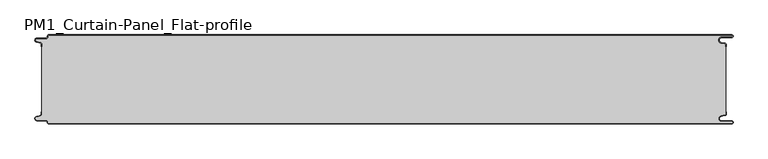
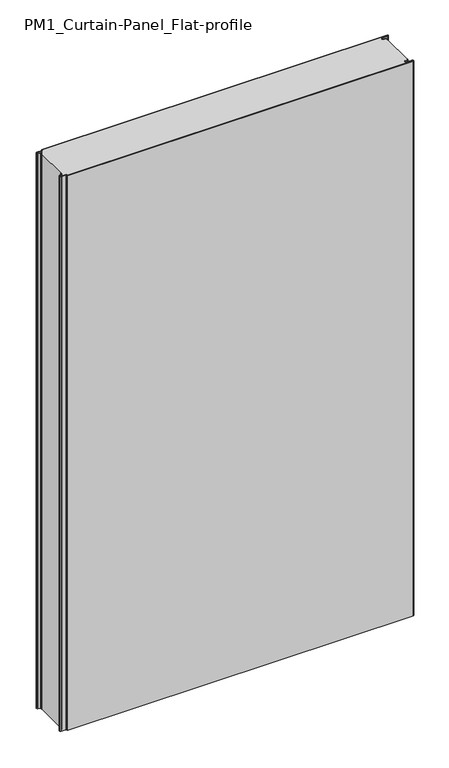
"""IFC4 building model written with IfcOpenShell, lengths in millimetres: plate geometry, PM1_Curtain-Panel_Flat-profile : ACH_PM1_Stone-wool-Panel_150M."""

from ifc_helpers import new_model, si_unit, point, frame_2d, origin, origin_with_axes, place, context, project, spatial, polyline, circle_curve, trimmed, segment, composite_curve, outline, extrude, source, transform, mapped, element, save


def pm1_curtain_panel_flat_profile_d683fd57(model_context):
    return source(origin(), model_context, "Body", "SweptSolid", [
        extrude(outline(composite_curve([segment(polyline([(-562.4, 0.0), (583.1, 0.0)]), True, "CONTINUOUS"), segment(trimmed(circle_curve(frame_2d((583.1, -2.5)), 2.5), [point((583.1, 0.0))], [point((583.1, -5.0))], False, "CARTESIAN"), True, "CONTINUOUS"), segment(polyline([(583.1, -5.0), (566.1, -5.0)]), True, "CONTINUOUS"), segment(trimmed(circle_curve(frame_2d((566.1, -9.0)), 4.0), [point((566.1, -5.0))], [point((565.4054075, -12.939231))], True, "CARTESIAN"), True, "CONTINUOUS"), segment(polyline([(565.4054075, -12.939231), (571.8514851, -14.075848)]), True, "CONTINUOUS"), segment(trimmed(circle_curve(frame_2d((571.4, -16.636348)), 2.6), [point((571.8514851, -14.075848))], [point((574.0, -16.636348))], False, "CARTESIAN"), True, "CONTINUOUS"), segment(polyline([(574.0, -16.636348), (574.0, -20.0), (573.2, -20.0), (573.2, -16.636348)]), True, "CONTINUOUS"), segment(trimmed(circle_curve(frame_2d((571.4, -16.636348)), 1.8), [point((573.2, -16.636348))], [point((571.7125666, -14.863694))], True, "CARTESIAN"), True, "CONTINUOUS"), segment(polyline([(571.7125666, -14.863694), (565.266489, -13.7270771)]), True, "CONTINUOUS"), segment(trimmed(circle_curve(frame_2d((566.1, -9.0)), 4.8), [point((565.266489, -13.7270771))], [point((566.1, -4.2))], False, "CARTESIAN"), True, "CONTINUOUS"), segment(polyline([(566.1, -4.2), (583.1, -4.2)]), True, "CONTINUOUS"), segment(trimmed(circle_curve(frame_2d((583.1, -2.5)), 1.7), [point((583.1, -4.2))], [point((583.1, -0.8))], True, "CARTESIAN"), True, "CONTINUOUS"), segment(polyline([(583.1, -0.8), (-562.4, -0.8)]), True, "CONTINUOUS"), segment(trimmed(circle_curve(frame_2d((-562.4, -2.0)), 1.2), [point((-562.4, -0.8))], [point((-563.6, -2.0))], True, "CARTESIAN"), True, "CONTINUOUS"), segment(polyline([(-563.6, -2.0), (-563.6, -3.4)]), True, "CONTINUOUS"), segment(trimmed(circle_curve(frame_2d((-566.4, -3.4)), 2.8), [point((-563.6, -3.4))], [point((-566.4, -6.2))], False, "CARTESIAN"), True, "CONTINUOUS"), segment(polyline([(-566.4, -6.2), (-581.9, -6.2)]), True, "CONTINUOUS"), segment(trimmed(circle_curve(frame_2d((-581.9, -9.0)), 2.8), [point((-581.9, -6.2))], [point((-582.529863, -11.7282362))], True, "CARTESIAN"), True, "CONTINUOUS"), segment(polyline([(-582.529863, -11.7282362), (-576.370137, -13.150321)]), True, "CONTINUOUS"), segment(trimmed(circle_curve(frame_2d((-577.0, -15.878557)), 2.8), [point((-576.370137, -13.150321))], [point((-574.2, -15.878557))], False, "CARTESIAN"), True, "CONTINUOUS"), segment(polyline([(-574.2, -15.878557), (-574.2, -20.0), (-575.0, -20.0), (-575.0, -15.878557)]), True, "CONTINUOUS"), segment(trimmed(circle_curve(frame_2d((-577.0, -15.878557)), 2.0), [point((-575.0, -15.878557))], [point((-576.5500978, -13.9298169))], True, "CARTESIAN"), True, "CONTINUOUS"), segment(polyline([(-576.5500978, -13.9298169), (-582.7098239, -12.507732)]), True, "CONTINUOUS"), segment(trimmed(circle_curve(frame_2d((-581.9, -9.0)), 3.6), [point((-582.7098239, -12.507732))], [point((-581.9, -5.4))], False, "CARTESIAN"), True, "CONTINUOUS"), segment(polyline([(-581.9, -5.4), (-566.4, -5.4)]), True, "CONTINUOUS"), segment(trimmed(circle_curve(frame_2d((-566.4, -3.4)), 2.0), [point((-566.4, -5.4))], [point((-564.4, -3.4))], True, "CARTESIAN"), True, "CONTINUOUS"), segment(polyline([(-564.4, -3.4), (-564.4, -2.0)]), True, "CONTINUOUS"), segment(trimmed(circle_curve(frame_2d((-562.4, -2.0)), 2.0), [point((-564.4, -2.0))], [point((-562.4, 0.0))], False, "CARTESIAN"), True, "CONTINUOUS")], self_intersect=False)), origin_with_axes(), (0.0, 0.0, 1.0), 1945.7507136),
        extrude(outline(composite_curve([segment(polyline([(-574.2, -134.1214426), (-574.2, -15.8785573)]), True, "CONTINUOUS"), segment(trimmed(circle_curve(frame_2d((-577.0, -15.8785573)), 2.8), [point((-574.2, -15.8785573))], [point((-576.370137, -13.1503212))], True, "CARTESIAN"), True, "CONTINUOUS"), segment(polyline([(-576.370137, -13.1503212), (-582.5298631, -11.7282362)]), True, "CONTINUOUS"), segment(trimmed(circle_curve(frame_2d((-581.9, -9.0)), 2.8), [point((-582.5298631, -11.7282362))], [point((-581.9, -6.2))], False, "CARTESIAN"), True, "CONTINUOUS"), segment(polyline([(-581.9, -6.2), (-566.4000001, -6.2)]), True, "CONTINUOUS"), segment(trimmed(circle_curve(frame_2d((-566.4000001, -3.4)), 2.8), [point((-566.4000001, -6.2))], [point((-563.6000001, -3.4))], True, "CARTESIAN"), True, "CONTINUOUS"), segment(polyline([(-563.6000001, -3.4), (-563.6000001, -2.0)]), True, "CONTINUOUS"), segment(trimmed(circle_curve(frame_2d((-562.4000001, -2.0)), 1.2), [point((-563.6000001, -2.0))], [point((-562.4000001, -0.8))], False, "CARTESIAN"), True, "CONTINUOUS"), segment(polyline([(-562.4000001, -0.8), (583.1, -0.8)]), True, "CONTINUOUS"), segment(trimmed(circle_curve(frame_2d((583.1, -2.5)), 1.7), [point((583.1, -0.8))], [point((583.1, -4.2))], False, "CARTESIAN"), True, "CONTINUOUS"), segment(polyline([(583.1, -4.2), (566.1, -4.2)]), True, "CONTINUOUS"), segment(trimmed(circle_curve(frame_2d((566.1, -9.0)), 4.8), [point((566.1, -4.2))], [point((565.2664883, -13.7270771))], True, "CARTESIAN"), True, "CONTINUOUS"), segment(polyline([(565.2664883, -13.7270771), (571.7125668, -14.8636953)]), True, "CONTINUOUS"), segment(trimmed(circle_curve(frame_2d((571.4, -16.6363492)), 1.8), [point((571.7125668, -14.8636953))], [point((573.2, -16.6363492))], False, "CARTESIAN"), True, "CONTINUOUS"), segment(polyline([(573.2, -16.6363492), (573.2, -133.3636508)]), True, "CONTINUOUS"), segment(trimmed(circle_curve(frame_2d((571.4, -133.3636508)), 1.8), [point((573.2, -133.3636508))], [point((571.7125668, -135.1363047))], False, "CARTESIAN"), True, "CONTINUOUS"), segment(polyline([(571.7125668, -135.1363047), (565.2664883, -136.2729229)]), True, "CONTINUOUS"), segment(trimmed(circle_curve(frame_2d((566.1, -141.0)), 4.8), [point((565.2664883, -136.2729229))], [point((566.1, -145.8))], True, "CARTESIAN"), True, "CONTINUOUS"), segment(polyline([(566.1, -145.8), (583.1, -145.8)]), True, "CONTINUOUS"), segment(trimmed(circle_curve(frame_2d((583.1, -147.5)), 1.7), [point((583.1, -145.8))], [point((583.1, -149.2))], False, "CARTESIAN"), True, "CONTINUOUS"), segment(polyline([(583.1, -149.2), (-562.4000001, -149.2)]), True, "CONTINUOUS"), segment(trimmed(circle_curve(frame_2d((-562.4000001, -148.0)), 1.2), [point((-562.4000001, -149.2))], [point((-563.6000001, -148.0))], False, "CARTESIAN"), True, "CONTINUOUS"), segment(polyline([(-563.6000001, -148.0), (-563.6000001, -146.6)]), True, "CONTINUOUS"), segment(trimmed(circle_curve(frame_2d((-566.4000001, -146.6)), 2.8), [point((-563.6000001, -146.6))], [point((-566.4000001, -143.8))], True, "CARTESIAN"), True, "CONTINUOUS"), segment(polyline([(-566.4000001, -143.8), (-581.9, -143.8)]), True, "CONTINUOUS"), segment(trimmed(circle_curve(frame_2d((-581.9, -141.0)), 2.8), [point((-581.9, -143.8))], [point((-582.5298631, -138.2717638))], False, "CARTESIAN"), True, "CONTINUOUS"), segment(polyline([(-582.5298631, -138.2717638), (-576.370137, -136.8496788)]), True, "CONTINUOUS"), segment(trimmed(circle_curve(frame_2d((-577.0, -134.1214426)), 2.8), [point((-576.370137, -136.8496788))], [point((-574.2, -134.1214426))], True, "CARTESIAN"), True, "CONTINUOUS")], self_intersect=False)), origin_with_axes(), (0.0, 0.0, 1.0), 1945.7507136),
        extrude(outline(composite_curve([segment(polyline([(583.1, -150.0), (-562.4, -150.0)]), True, "CONTINUOUS"), segment(trimmed(circle_curve(frame_2d((-562.4, -148.0)), 2.0), [point((-562.4, -150.0))], [point((-564.4, -148.0))], False, "CARTESIAN"), True, "CONTINUOUS"), segment(polyline([(-564.4, -148.0), (-564.4, -146.6)]), True, "CONTINUOUS"), segment(trimmed(circle_curve(frame_2d((-566.4, -146.6)), 2.0), [point((-564.4, -146.6))], [point((-566.4, -144.6))], True, "CARTESIAN"), True, "CONTINUOUS"), segment(polyline([(-566.4, -144.6), (-581.9, -144.6)]), True, "CONTINUOUS"), segment(trimmed(circle_curve(frame_2d((-581.9, -141.0)), 3.6), [point((-581.9, -144.6))], [point((-582.7098239, -137.4922678))], False, "CARTESIAN"), True, "CONTINUOUS"), segment(polyline([(-582.7098239, -137.4922678), (-576.5500979, -136.070183)]), True, "CONTINUOUS"), segment(trimmed(circle_curve(frame_2d((-577.0, -134.121443)), 2.0), [point((-576.5500979, -136.070183))], [point((-575.0, -134.121443))], True, "CARTESIAN"), True, "CONTINUOUS"), segment(polyline([(-575.0, -134.121443), (-575.0, -130.0), (-574.2, -130.0), (-574.2, -134.121443)]), True, "CONTINUOUS"), segment(trimmed(circle_curve(frame_2d((-577.0, -134.121443)), 2.8), [point((-574.2, -134.121443))], [point((-576.370137, -136.8496792))], False, "CARTESIAN"), True, "CONTINUOUS"), segment(polyline([(-576.370137, -136.8496792), (-582.529863, -138.271764)]), True, "CONTINUOUS"), segment(trimmed(circle_curve(frame_2d((-581.9, -141.0)), 2.8), [point((-582.529863, -138.271764))], [point((-581.9, -143.8))], True, "CARTESIAN"), True, "CONTINUOUS"), segment(polyline([(-581.9, -143.8), (-566.4, -143.8)]), True, "CONTINUOUS"), segment(trimmed(circle_curve(frame_2d((-566.4, -146.6)), 2.8), [point((-566.4, -143.8))], [point((-563.6, -146.6))], False, "CARTESIAN"), True, "CONTINUOUS"), segment(polyline([(-563.6, -146.6), (-563.6, -148.0)]), True, "CONTINUOUS"), segment(trimmed(circle_curve(frame_2d((-562.4, -148.0)), 1.2), [point((-563.6, -148.0))], [point((-562.4, -149.2))], True, "CARTESIAN"), True, "CONTINUOUS"), segment(polyline([(-562.4, -149.2), (583.1, -149.2)]), True, "CONTINUOUS"), segment(trimmed(circle_curve(frame_2d((583.1, -147.5)), 1.7), [point((583.1, -149.2))], [point((583.1, -145.8))], True, "CARTESIAN"), True, "CONTINUOUS"), segment(polyline([(583.1, -145.8), (566.1, -145.8)]), True, "CONTINUOUS"), segment(trimmed(circle_curve(frame_2d((566.1, -141.0)), 4.8), [point((566.1, -145.8))], [point((565.266489, -136.2729227))], False, "CARTESIAN"), True, "CONTINUOUS"), segment(polyline([(565.266489, -136.2729227), (571.7125666, -135.1363058)]), True, "CONTINUOUS"), segment(trimmed(circle_curve(frame_2d((571.4, -133.363652)), 1.8), [point((571.7125666, -135.1363058))], [point((573.2, -133.363652))], True, "CARTESIAN"), True, "CONTINUOUS"), segment(polyline([(573.2, -133.363652), (573.2, -130.0), (574.0, -130.0), (574.0, -133.363652)]), True, "CONTINUOUS"), segment(trimmed(circle_curve(frame_2d((571.4, -133.363652)), 2.6), [point((574.0, -133.363652))], [point((571.8514851, -135.9241522))], False, "CARTESIAN"), True, "CONTINUOUS"), segment(polyline([(571.8514851, -135.9241522), (565.4054075, -137.0607691)]), True, "CONTINUOUS"), segment(trimmed(circle_curve(frame_2d((566.1, -141.0)), 4.0), [point((565.4054075, -137.0607691))], [point((566.1, -145.0))], True, "CARTESIAN"), True, "CONTINUOUS"), segment(polyline([(566.1, -145.0), (583.1, -145.0)]), True, "CONTINUOUS"), segment(trimmed(circle_curve(frame_2d((583.1, -147.5)), 2.5), [point((583.1, -145.0))], [point((583.1, -150.0))], False, "CARTESIAN"), True, "CONTINUOUS")], self_intersect=False)), origin_with_axes(), (0.0, 0.0, 1.0), 1945.7507136),
    ])


if __name__ == "__main__":
    model = new_model("IFC4")
    model_context = context("Model", 3, world=origin())
    ifc_project = project(units=[si_unit("LENGTHUNIT", "METRE", prefix="MILLI")], contexts=[model_context])
    site = spatial("IfcSite", under=ifc_project)
    building = spatial("IfcBuilding", under=site)
    placement = place(None, origin())
    pm1_curtain_panel_flat_profile_shape = pm1_curtain_panel_flat_profile_d683fd57(model_context)
    element("IfcPlate", 1, ObjectType="PM1_Curtain-Panel_Flat-profile : ACH_PM1_Stone-wool-Panel_150M", at=placement, inside=building, context=model_context, shape_type="MappedRepresentation", body=[
        mapped(pm1_curtain_panel_flat_profile_shape, transform((0.0, 0.0, 0.0), x_axis=(1.0, 0.0, 0.0), y_axis=(0.0, 1.0, 0.0), z_axis=(0.0, 0.0, 1.0))),
    ])
    save(model, "model.ifc")
